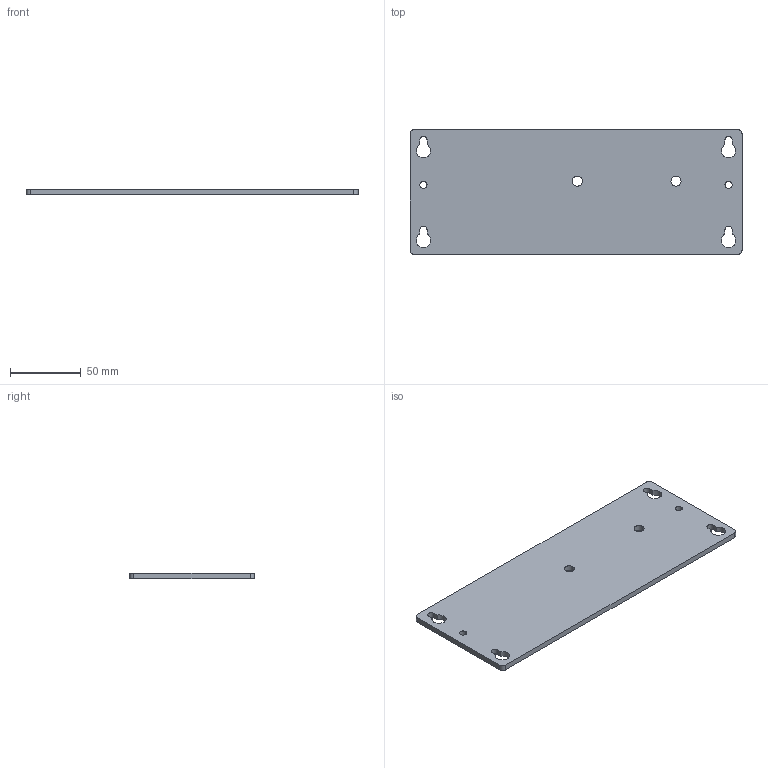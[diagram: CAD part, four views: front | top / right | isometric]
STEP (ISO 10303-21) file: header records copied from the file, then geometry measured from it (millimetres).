
FILE_DESCRIPTION((''),'2;1');
FILE_NAME('PANEL_MOUNT_4_SLOT','2007-02-01T',('chrisj'),(''),'PRO/ENGINEER BY PARAMETRIC TECHNOLOGY CORPORATION, 2006080','PRO/ENGINEER BY PARAMETRIC TECHNOLOGY CORPORATION, 2006080','');
FILE_SCHEMA(('AUTOMOTIVE_DESIGN_CC2 { 1 2 10303 214 -1 1 5 2 }'));
Length unit declared in the file: inch
Products named in the file (1): PANEL_MOUNT_4_SLOT
Bounding box: 234.95 x 88.14 x 4 mm (x, y, z)
Volume: 80635 mm3; surface area: 43845.1 mm2
Topology: 1 solids, 1 shells, 34 faces, 96 edges, 64 vertices
Faces by surface type: cylinder 20, plane 14
Entity records: 1196 total; most frequent: DIRECTION 204, CARTESIAN_POINT 194, ORIENTED_EDGE 192, EDGE_CURVE 96, AXIS2_PLACEMENT_3D 74, VERTEX_POINT 64, VECTOR 56, LINE 56
